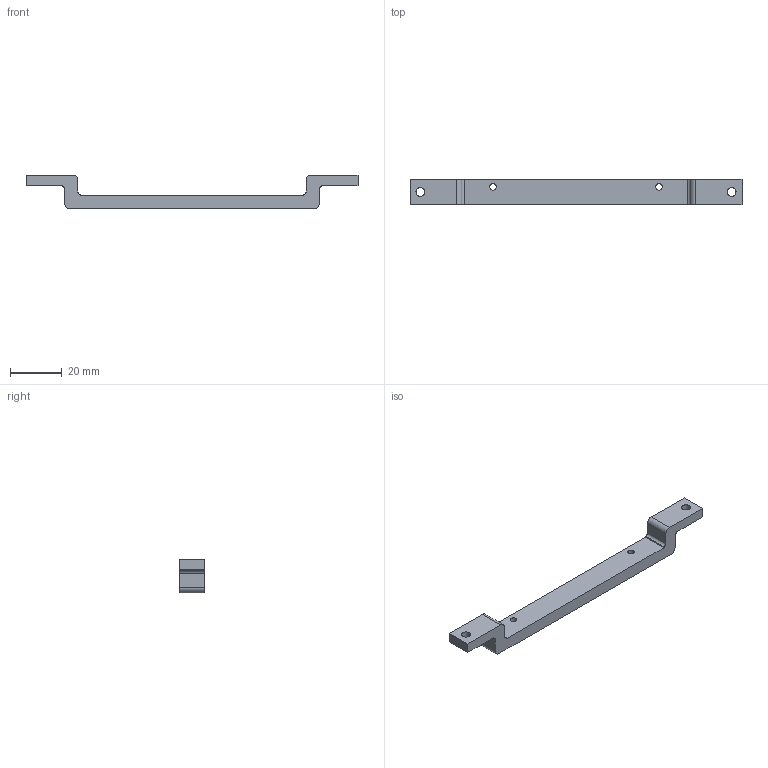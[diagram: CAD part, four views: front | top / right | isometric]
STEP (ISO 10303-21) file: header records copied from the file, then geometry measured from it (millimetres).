
FILE_DESCRIPTION(/* description */ (''),/* implementation_level */ '2;1');
FILE_NAME(/* name */ 'CWC-SE0011-P04_Torque Sensor Tub TD50.stp',/* time_stamp */ '2026-04-28T16:18:58+02:00',/* author */ (''),/* organization */ (''),/* preprocessor_version */ 'ST-DEVELOPER v18.1',/* originating_system */ 'SIEMENS PLM Software NX 1988',/* authorisation */ '');
FILE_SCHEMA (('AUTOMOTIVE_DESIGN { 1 0 10303 214 3 1 1 1 }'));
Length unit declared in the file: millimetre
Products named in the file (1): anto6558201A7eza
Bounding box: 128 x 10 x 13 mm (x, y, z)
Volume: 6772.5 mm3; surface area: 4415.4 mm2
Topology: 1 solids, 1 shells, 30 faces, 88 edges, 60 vertices
Faces by surface type: plane 18, cylinder 12
Full cylindrical faces by diameter (mm): 2.5 x2, 3.4 x2
Entity records: 1000 total; most frequent: CARTESIAN_POINT 167, DIRECTION 166, ORIENTED_EDGE 160, EDGE_CURVE 80, VERTEX_POINT 56, LINE 56, VECTOR 56, AXIS2_PLACEMENT_3D 55
